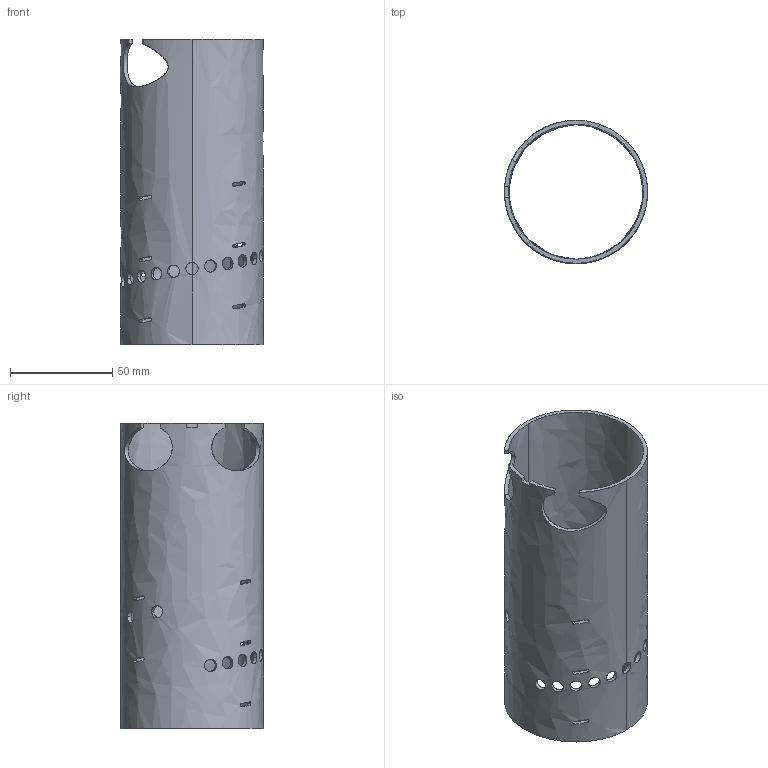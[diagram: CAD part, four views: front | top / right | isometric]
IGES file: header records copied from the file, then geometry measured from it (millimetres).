
Start section: START RECORD GO HERE.
Global section: file name: 090130_AW__AU714PA_POS_16-1__ZSB_ZYKLON__ZYKLONGEHAEUSE.igs; native system: IBM CATIA IGES - CATIA Version 5 Release 16 ; preprocessor: 27HCATIA Version 5 Release 16; author: wiechert; organization: DETTINGEN; date: 20090216.151358; units: millimetre
Bounding box: 70 x 70 x 149.5 mm (x, y, z)
Surface area: 62544.4 mm2 (no closed solid volume)
Topology: 0 solids, 0 shells, 120 faces, 732 edges, 732 vertices
Faces by surface type: bspline 120
